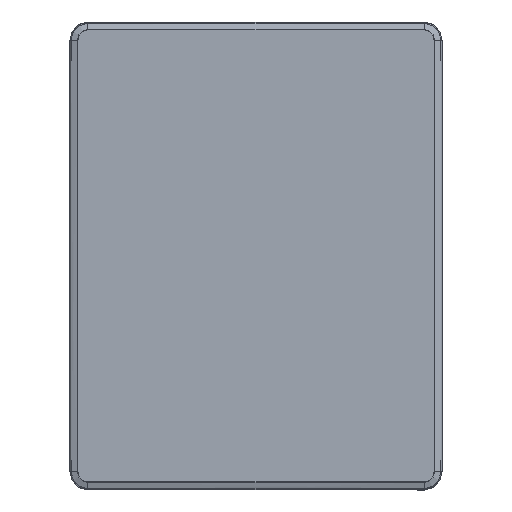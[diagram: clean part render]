
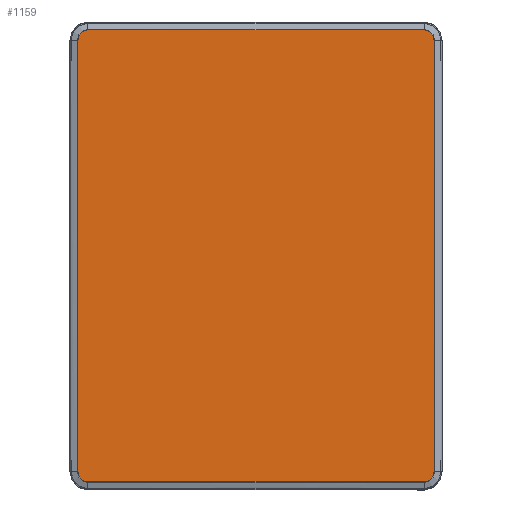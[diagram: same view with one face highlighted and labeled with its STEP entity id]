
A CAD part, top view. The second image highlights one B-rep face of the part: STEP entity #1159.
In plain terms, the highlighted planar face has unit normal (0, 0, 1).
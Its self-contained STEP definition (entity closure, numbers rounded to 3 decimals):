
#1159=ADVANCED_FACE('',(#1611),#1248,.T.);
#1248=PLANE('',#6669);
#1611=FACE_OUTER_BOUND('',#2015,.T.);
#2015=EDGE_LOOP('',(#4042,#4043,#4044,#4045,#4046,#4047,#4048,#4049));
#2298=CIRCLE('',#6665,8.397);
#2299=CIRCLE('',#6666,8.397);
#2300=CIRCLE('',#6667,8.397);
#2301=CIRCLE('',#6668,8.397);
#4042=ORIENTED_EDGE('',*,*,#5582,.T.);
#4043=ORIENTED_EDGE('',*,*,#5583,.T.);
#4044=ORIENTED_EDGE('',*,*,#5584,.T.);
#4045=ORIENTED_EDGE('',*,*,#5585,.T.);
#4046=ORIENTED_EDGE('',*,*,#5586,.T.);
#4047=ORIENTED_EDGE('',*,*,#5587,.T.);
#4048=ORIENTED_EDGE('',*,*,#5588,.T.);
#4049=ORIENTED_EDGE('',*,*,#5589,.T.);
#4690=VERTEX_POINT('',#14972);
#4691=VERTEX_POINT('',#14973);
#4692=VERTEX_POINT('',#14975);
#4693=VERTEX_POINT('',#14977);
#4694=VERTEX_POINT('',#14979);
#4695=VERTEX_POINT('',#14981);
#4696=VERTEX_POINT('',#14983);
#4697=VERTEX_POINT('',#14985);
#5582=EDGE_CURVE('',#4690,#4691,#5876,.T.);
#5583=EDGE_CURVE('',#4691,#4692,#2298,.T.);
#5584=EDGE_CURVE('',#4692,#4693,#5877,.T.);
#5585=EDGE_CURVE('',#4693,#4694,#2299,.T.);
#5586=EDGE_CURVE('',#4694,#4695,#5878,.T.);
#5587=EDGE_CURVE('',#4695,#4696,#2300,.T.);
#5588=EDGE_CURVE('',#4696,#4697,#5879,.T.);
#5589=EDGE_CURVE('',#4697,#4690,#2301,.T.);
#5876=LINE('',#14971,#6130);
#5877=LINE('',#14976,#6131);
#5878=LINE('',#14980,#6132);
#5879=LINE('',#14984,#6133);
#6130=VECTOR('',#7966,1.);
#6131=VECTOR('',#7969,1.);
#6132=VECTOR('',#7972,1.);
#6133=VECTOR('',#7975,1.);
#6665=AXIS2_PLACEMENT_3D('',#14974,#7967,#7968);
#6666=AXIS2_PLACEMENT_3D('',#14978,#7970,#7971);
#6667=AXIS2_PLACEMENT_3D('',#14982,#7973,#7974);
#6668=AXIS2_PLACEMENT_3D('',#14986,#7976,#7977);
#6669=AXIS2_PLACEMENT_3D('',#14987,#7978,#7979);
#7966=DIRECTION('',(0.,-1.,0.));
#7967=DIRECTION('',(0.,0.,1.));
#7968=DIRECTION('',(1.,0.,0.));
#7969=DIRECTION('',(1.,0.,0.));
#7970=DIRECTION('',(0.,0.,1.));
#7971=DIRECTION('',(1.,0.,0.));
#7972=DIRECTION('',(0.,1.,0.));
#7973=DIRECTION('',(0.,0.,1.));
#7974=DIRECTION('',(1.,0.,0.));
#7975=DIRECTION('',(-1.,0.,0.));
#7976=DIRECTION('',(0.,0.,1.));
#7977=DIRECTION('',(1.,0.,0.));
#7978=DIRECTION('',(0.,0.,1.));
#7979=DIRECTION('',(1.,0.,0.));
#14971=CARTESIAN_POINT('',(-146.412,177.22,5.765));
#14972=CARTESIAN_POINT('',(-146.412,177.22,5.765));
#14973=CARTESIAN_POINT('',(-146.412,-177.22,5.765));
#14974=CARTESIAN_POINT('',(-138.015,-177.22,5.765));
#14975=CARTESIAN_POINT('',(-138.015,-185.617,5.765));
#14976=CARTESIAN_POINT('',(138.015,-185.617,5.765));
#14977=CARTESIAN_POINT('',(138.015,-185.617,5.765));
#14978=CARTESIAN_POINT('',(138.015,-177.22,5.765));
#14979=CARTESIAN_POINT('',(146.412,-177.22,5.765));
#14980=CARTESIAN_POINT('',(146.412,177.22,5.765));
#14981=CARTESIAN_POINT('',(146.412,177.22,5.765));
#14982=CARTESIAN_POINT('',(138.015,177.22,5.765));
#14983=CARTESIAN_POINT('',(138.015,185.617,5.765));
#14984=CARTESIAN_POINT('',(138.015,185.617,5.765));
#14985=CARTESIAN_POINT('',(-138.015,185.617,5.765));
#14986=CARTESIAN_POINT('',(-138.015,177.22,5.765));
#14987=CARTESIAN_POINT('',(138.015,177.22,5.765));
